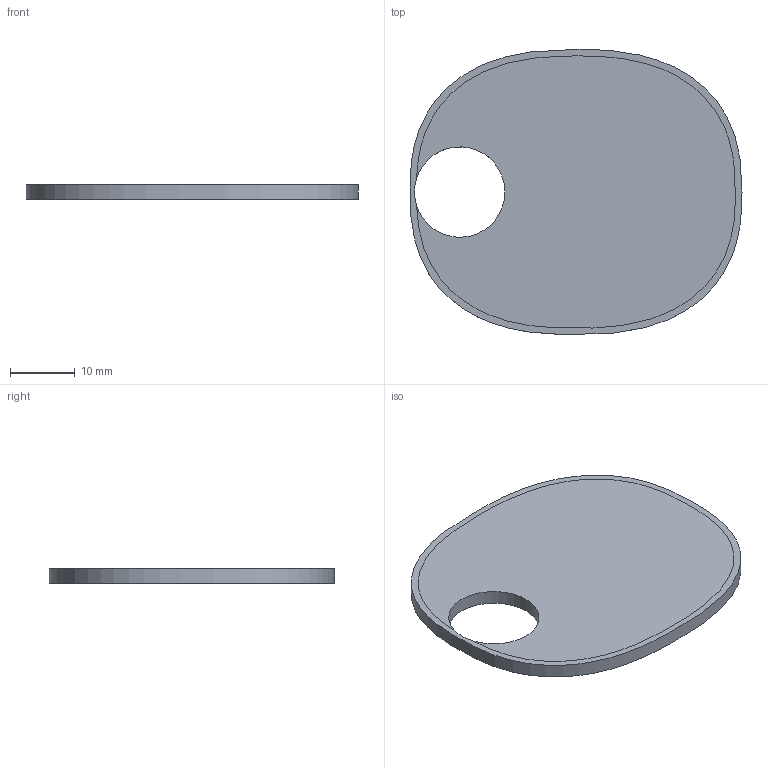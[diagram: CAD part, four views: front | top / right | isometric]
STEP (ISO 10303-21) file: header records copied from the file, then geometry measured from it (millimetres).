
FILE_DESCRIPTION(('Open CASCADE Model'),'2;1');
FILE_NAME('Open CASCADE Shape Model','2026-11-11T21:38:38',('Author'),( 'Open CASCADE'),'Open CASCADE STEP processor 8.0','build123d', 'Unknown');
FILE_SCHEMA(('AUTOMOTIVE_DESIGN { 1 0 10303 214 1 1 1 1 }'));
Products named in the file (1): SOLID
Bounding box: 51.43 x 44.18 x 2.2 mm (x, y, z)
Volume: 3879 mm3; surface area: 3954.6 mm2
Topology: 1 solids, 1 shells, 6 faces, 18 edges, 12 vertices
Faces by surface type: bspline 2, plane 2, cylinder 1, offset 1
Full cylindrical faces by diameter (mm): 14 x1
Entity records: 34702 total; most frequent: CARTESIAN_POINT 34390, DIRECTION 37, ORIENTED_EDGE 36, PCURVE 36, DEFINITIONAL_REPRESENTATION 36, B_SPLINE_CURVE_WITH_KNOTS 28, EDGE_CURVE 18, LINE 17
